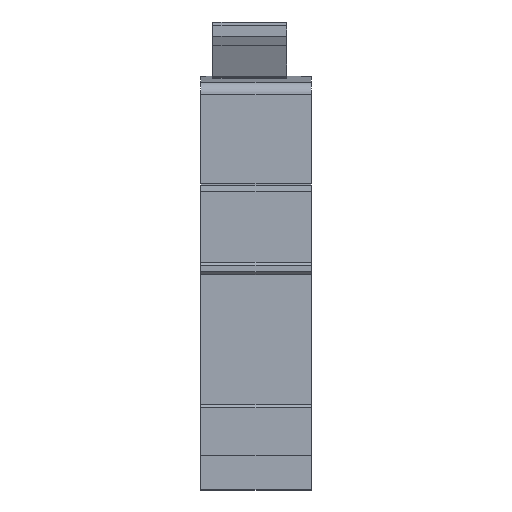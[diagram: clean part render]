
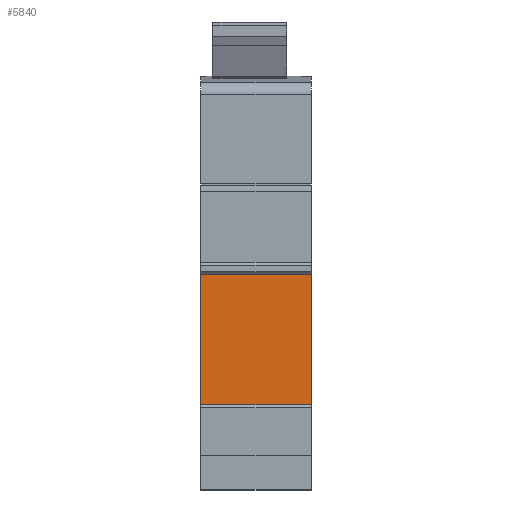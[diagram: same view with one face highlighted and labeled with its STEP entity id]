
A CAD part, front view. The second image highlights one B-rep face of the part: STEP entity #5840.
In plain terms, the highlighted planar face has unit normal (0, -1, 0).
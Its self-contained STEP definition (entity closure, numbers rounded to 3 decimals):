
#310=PLANE('',#6350);
#641=FACE_OUTER_BOUND('',#1034,.T.);
#1034=EDGE_LOOP('',(#4714,#4715,#4716,#4717));
#1485=LINE('',#9475,#2024);
#1501=LINE('',#9626,#2040);
#1545=LINE('',#9718,#2084);
#1546=LINE('',#9720,#2085);
#2024=VECTOR('',#7307,10.);
#2040=VECTOR('',#7497,10.);
#2084=VECTOR('',#7555,10.);
#2085=VECTOR('',#7558,10.);
#2799=VERTEX_POINT('',#9472);
#2800=VERTEX_POINT('',#9474);
#2847=VERTEX_POINT('',#9623);
#2848=VERTEX_POINT('',#9625);
#3482=EDGE_CURVE('',#2799,#2800,#1485,.T.);
#3540=EDGE_CURVE('',#2848,#2847,#1501,.T.);
#3587=EDGE_CURVE('',#2847,#2800,#1545,.T.);
#3588=EDGE_CURVE('',#2848,#2799,#1546,.T.);
#4714=ORIENTED_EDGE('',*,*,#3540,.T.);
#4715=ORIENTED_EDGE('',*,*,#3587,.T.);
#4716=ORIENTED_EDGE('',*,*,#3482,.F.);
#4717=ORIENTED_EDGE('',*,*,#3588,.F.);
#5840=ADVANCED_FACE('',(#641),#310,.T.);
#6350=AXIS2_PLACEMENT_3D('',#9719,#7556,#7557);
#7307=DIRECTION('',(0.,0.,-1.));
#7497=DIRECTION('',(0.,0.,-1.));
#7555=DIRECTION('',(1.,0.,0.));
#7556=DIRECTION('center_axis',(0.,-1.,0.));
#7557=DIRECTION('ref_axis',(0.,0.,-1.));
#7558=DIRECTION('',(1.,0.,0.));
#9472=CARTESIAN_POINT('',(18.,-45.241,5.4));
#9474=CARTESIAN_POINT('',(18.,-45.241,-15.712));
#9475=CARTESIAN_POINT('',(18.,-45.241,5.4));
#9623=CARTESIAN_POINT('',(0.,-45.241,-15.712));
#9625=CARTESIAN_POINT('',(0.,-45.241,5.4));
#9626=CARTESIAN_POINT('',(0.,-45.241,5.4));
#9718=CARTESIAN_POINT('',(0.,-45.241,-15.712));
#9719=CARTESIAN_POINT('Origin',(0.,-45.241,5.4));
#9720=CARTESIAN_POINT('',(0.,-45.241,5.4));
